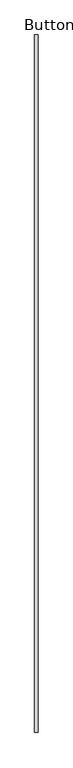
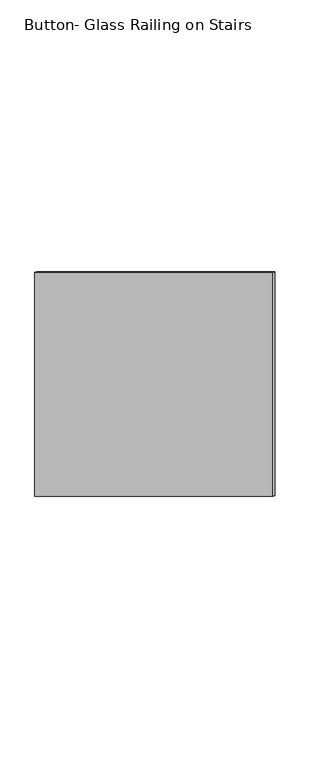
"""IFC4 building model written with IfcOpenShell, lengths in millimetres: railing geometry, Button- Glass Railing on Stairs."""

from ifc_helpers import new_model, si_unit, frame, origin, place, context, project, spatial, polyline, outline, extrude, source, transform, mapped, element, save


def button_glass_railing_on_stairs_3668c12f(model_context):
    return source(origin(), model_context, "Body", "SweptSolid", [
        extrude(outline(polyline([(4708.9994253, 2603.5), (4708.9994253, 1163.0145889), (2194.3994253, 2687.0145889), (2194.3994253, 4127.5), (4708.9994253, 2603.5)])), frame((2062.9076518, 0.0, 0.0), z_axis=(1.0, 0.0, 0.0), x_axis=(0.0, 1.0, 0.0)), (0.0, 0.0, 1.0), 12.7),
    ])


if __name__ == "__main__":
    model = new_model("IFC4")
    model_context = context("Model", 3, world=origin())
    ifc_project = project(units=[si_unit("LENGTHUNIT", "METRE", prefix="MILLI")], contexts=[model_context])
    site = spatial("IfcSite", under=ifc_project)
    building = spatial("IfcBuilding", under=site)
    placement = place(None, origin())
    button_glass_railing_on_stairs_shape = button_glass_railing_on_stairs_3668c12f(model_context)
    element("IfcRailing", 1, ObjectType="Button- Glass Railing on Stairs", at=placement, inside=building, context=model_context, shape_type="MappedRepresentation", body=[
        mapped(button_glass_railing_on_stairs_shape, transform((0.0, 0.0, 0.0), x_axis=(1.0, 0.0, 0.0), y_axis=(0.0, 1.0, 0.0), z_axis=(0.0, 0.0, 1.0))),
    ])
    save(model, "model.ifc")
